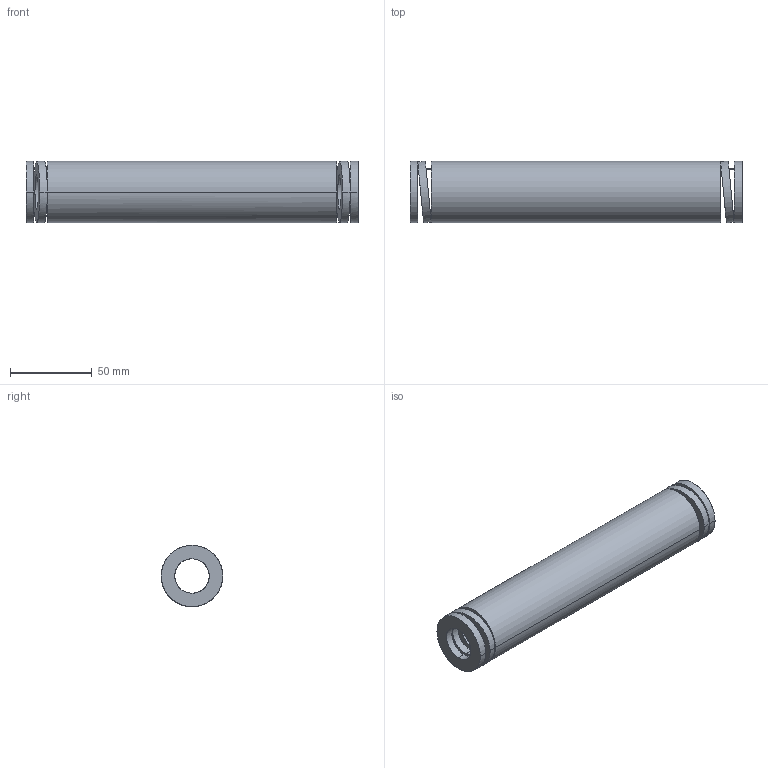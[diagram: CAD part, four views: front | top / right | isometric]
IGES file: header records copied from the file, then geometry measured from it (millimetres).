
Start section: START RECORD GO HERE.
Global section: file name: 392-B40-203.igs; native system: DASSAULT SYSTEMES CATIA V5 R20 - www.3ds.com; preprocessor: CATIA Version 5 Release 20 ; author: Utente; organization: NB04-ASUS; date: 20210813.131257; units: millimetre
Bounding box: 203 x 37.78 x 37.5 mm (x, y, z)
Surface area: 43551.8 mm2 (no closed solid volume)
Topology: 0 solids, 0 shells, 38 faces, 184 edges, 184 vertices
Faces by surface type: revolution 28, plane 10
